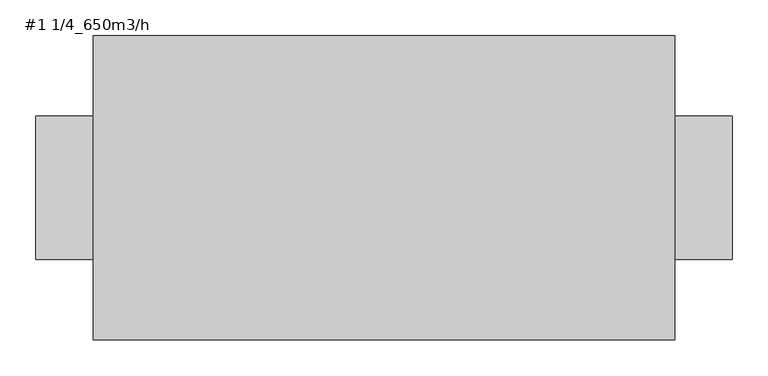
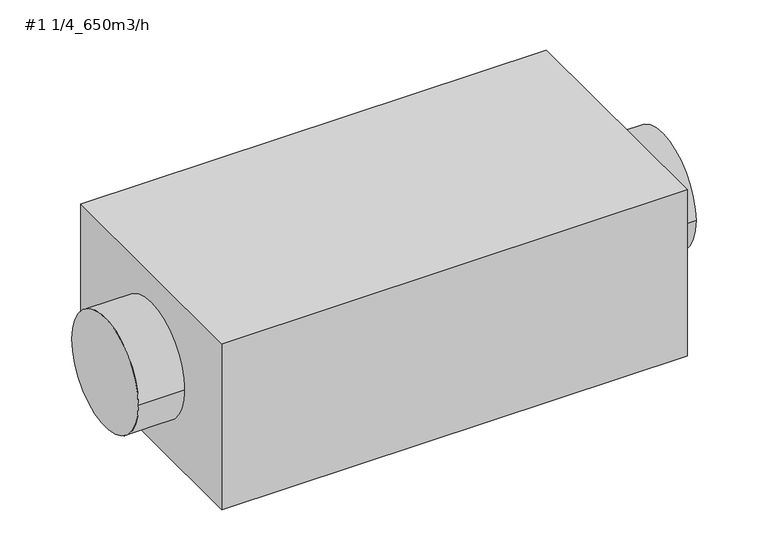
"""IFC4 building model written with IfcOpenShell, lengths in millimetres: unitary equipment geometry, 11030_FAN_消音ボックス付送風機 : #1 1/4_650m3/h."""

from ifc_helpers import new_model, si_unit, point, frame, origin, origin_2d, place, context, project, spatial, polyline, circle_curve, trimmed, segment, composite_curve, outline, extrude, source, transform, mapped, element, save


def unitary_equipment_1_1_4_650m3_h_05f98e83(model_context):
    return source(origin(), model_context, "Body", "SweptSolid", [
        extrude(outline(composite_curve([segment(trimmed(circle_curve(origin_2d(), 100.0), [point((-100.0, 0.0))], [point((100.0, 0.0))], False, "CARTESIAN"), True, "CONTINUOUS"), segment(trimmed(circle_curve(origin_2d(), 100.0), [point((100.0, 0.0))], [point((-100.0, 0.0))], False, "CARTESIAN"), True, "CONTINUOUS")], self_intersect=False)), frame((-484.0, 0.0, 0.0), z_axis=(1.0, 0.0, 0.0), x_axis=(0.0, 1.0, 0.0)), (0.0, 0.0, 1.0), 80.0),
        extrude(outline(composite_curve([segment(trimmed(circle_curve(origin_2d(), 100.0), [point((-100.0, 0.0))], [point((100.0, 0.0))], False, "CARTESIAN"), True, "CONTINUOUS"), segment(trimmed(circle_curve(origin_2d(), 100.0), [point((100.0, 0.0))], [point((-100.0, 0.0))], False, "CARTESIAN"), True, "CONTINUOUS")], self_intersect=False)), frame((404.0, 0.0, 0.0), z_axis=(1.0, 0.0, 0.0), x_axis=(0.0, 1.0, 0.0)), (0.0, 0.0, 1.0), 80.0),
        extrude(outline(polyline([(404.0, -211.5), (-404.0, -211.5), (-404.0, 211.5), (404.0, 211.5), (404.0, -211.5)])), frame((0.0, 0.0, -152.5), z_axis=(0.0, 0.0, 1.0), x_axis=(1.0, 0.0, 0.0)), (0.0, 0.0, 1.0), 305.0),
    ])


if __name__ == "__main__":
    model = new_model("IFC4")
    model_context = context("Model", 3, world=origin())
    ifc_project = project(units=[si_unit("LENGTHUNIT", "METRE", prefix="MILLI")], contexts=[model_context])
    site = spatial("IfcSite", under=ifc_project)
    building = spatial("IfcBuilding", under=site)
    placement = place(None, origin())
    unitary_equipment_1_1_4_650m3_h_shape = unitary_equipment_1_1_4_650m3_h_05f98e83(model_context)
    element("IfcUnitaryEquipment", 1, ObjectType="11030_FAN_消音ボックス付送風機 : #1 1/4_650m3/h", at=placement, inside=building, context=model_context, shape_type="MappedRepresentation", body=[
        mapped(unitary_equipment_1_1_4_650m3_h_shape, transform((0.0, 0.0, 0.0), x_axis=(1.0, 0.0, 0.0), y_axis=(0.0, 1.0, 0.0), z_axis=(0.0, 0.0, 1.0))),
    ])
    save(model, "model.ifc")
